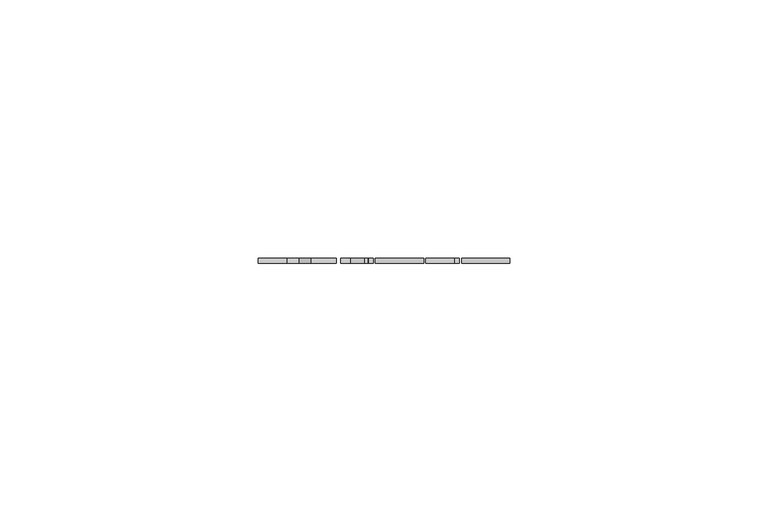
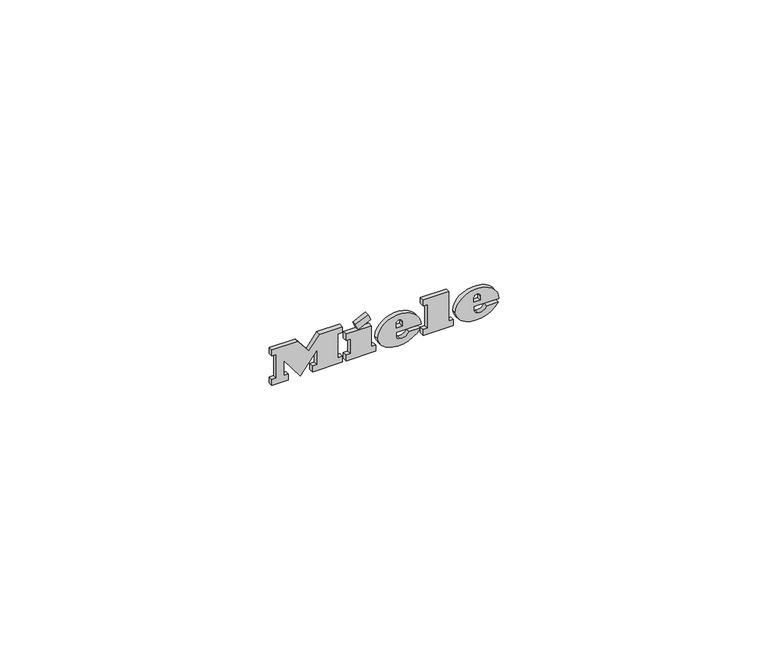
"""IFC4 building model written with IfcOpenShell, lengths in millimetres: proxy geometry, 11373310_BR_KWT6322UG : 36632200_BR_11373310_KWT6322UG."""

from ifc_helpers import new_model, si_unit, point, frame, origin, place, context, project, spatial, polyline, circle_curve, ellipse_curve, trimmed, outline, extrude, source, transform, mapped, element, save
from ifc_brep_helpers import plane_surface, cylinder_surface, revolved_surface, extruded_surface, advanced_brep


def specialty_equipment_e16e2d4e(model_context):
    return source(origin(), model_context, "Body", "SolidModel", [
        advanced_brep(
        [(18.456, -1.0, 161.896), (18.456, -1.0, 162.704), (23.808, -1.0, 162.704), (14.496, -1.0, 162.704), (16.696, -1.0, 160.0), (23.672, -1.0, 161.896), (21.256, -1.0, 161.896), (19.352, -1.0, 161.0), (18.456, -1.0, 163.728), (18.456, -1.0, 164.6), (19.824, -1.0, 164.6), (19.824, -1.0, 163.728), (18.456, 0.0, 161.896), (19.352, 0.0, 161.0), (21.256, 0.0, 161.896), (23.672, 0.0, 161.896), (16.696, 0.0, 160.0), (14.496, 0.0, 162.704), (23.808, 0.0, 162.704), (18.456, 0.0, 162.704), (18.456, 0.0, 163.728), (19.824, 0.0, 163.728), (19.824, 0.0, 164.6), (18.456, 0.0, 164.6)],
        [
            (0, 1),
            (1, 2),
            (2, 3, ellipse_curve(frame((19.152, -1.0, 162.704), z_axis=(0.0, -1.0, 0.0), x_axis=(-1.0, 0.0, 0.0)), 4.656, 3.848)),
            (3, 4, circle_curve(frame((17.5920436, -1.0, 162.976), z_axis=(0.0, -1.0, 0.0), x_axis=(0.0, 0.0, -1.0)), 3.1079688)),
            (4, 5, circle_curve(frame((19.0587936, -1.0, 165.088), z_axis=(0.0, -1.0, 0.0), x_axis=(0.0, 0.0, -1.0)), 5.6098607)),
            (5, 6),
            (6, 7, circle_curve(frame((19.7430588, -1.0, 162.64), z_axis=(0.0, 1.0, 0.0), x_axis=(0.0, 0.0, -1.0)), 1.6859795)),
            (7, 0, circle_curve(frame((19.352, -1.0, 161.896), z_axis=(0.0, 1.0, 0.0), x_axis=(0.0, 0.0, -1.0)), 0.896)),
            (8, 9),
            (9, 10, circle_curve(frame((19.14, -1.0, 164.6), z_axis=(0.0, 1.0, 0.0), x_axis=(0.0, 0.0, -1.0)), 0.684)),
            (10, 11),
            (11, 8),
            (12, 13, circle_curve(frame((19.352, 0.0, 161.896), z_axis=(0.0, -1.0, 0.0), x_axis=(0.0, 0.0, -1.0)), 0.896)),
            (13, 14, circle_curve(frame((19.7430588, 0.0, 162.64), z_axis=(0.0, -1.0, 0.0), x_axis=(0.0, 0.0, -1.0)), 1.6859795)),
            (14, 15),
            (15, 16, circle_curve(frame((19.0587936, 0.0, 165.088), z_axis=(0.0, 1.0, 0.0), x_axis=(0.0, 0.0, -1.0)), 5.6098607)),
            (16, 17, circle_curve(frame((17.5920436, 0.0, 162.976), z_axis=(0.0, 1.0, 0.0), x_axis=(0.0, 0.0, -1.0)), 3.1079688)),
            (17, 18, ellipse_curve(frame((19.152, 0.0, 162.704), z_axis=(0.0, 1.0, 0.0), x_axis=(-1.0, 0.0, 0.0)), 4.656, 3.848)),
            (18, 19),
            (19, 12),
            (20, 21),
            (21, 22),
            (22, 23, circle_curve(frame((19.14, 0.0, 164.6), z_axis=(0.0, -1.0, 0.0), x_axis=(0.0, 0.0, -1.0)), 0.684)),
            (23, 20),
            (0, 12),
            (19, 1),
            (18, 2),
            (5, 15),
            (14, 6),
            (17, 3),
            (13, 7),
            (16, 4),
            (8, 20),
            (23, 9),
            (22, 10),
            (21, 11),
        ],
        [
            plane_surface(frame((18.456, -1.0, 162.704), z_axis=(0.0, -1.0, 0.0), x_axis=(0.0, 0.0, 1.0))),
            plane_surface(frame((18.456, 0.0, 162.704), z_axis=(0.0, 1.0, 0.0), x_axis=(0.0, 0.0, -1.0))),
            plane_surface(frame((18.456, -1.0, 161.896), z_axis=(1.0, 0.0, 0.0), x_axis=(0.0, 1.0, 0.0))),
            plane_surface(frame((18.456, -1.0, 162.704), z_axis=(0.0, 0.0, -1.0), x_axis=(0.0, 1.0, 0.0))),
            plane_surface(frame((23.672, -1.0, 161.896), z_axis=(0.0, 0.0, 1.0), x_axis=(0.0, 1.0, 0.0))),
            extruded_surface(trimmed(ellipse_curve(frame((19.152, 1.0, 162.704), z_axis=(0.0, -1.0, 0.0), x_axis=(-1.0, 0.0, 0.0)), 4.656, 3.848), [point((23.808, 1.0, 162.704))], [point((14.496, 1.0, 162.704))], True, "CARTESIAN"), (0.0, -1.0, 0.0), 1.0),
            revolved_surface(polyline([(19.7430588, 0.0, 160.95402049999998), (19.7430588, -1.0, 160.95402049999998)]), (19.7430588, 0.0, 162.64), (0.0, 1.0, 0.0)),
            revolved_surface(polyline([(19.352, 0.0, 161.0), (19.352, -1.0, 161.0)]), (19.352, 0.0, 161.896), (0.0, 1.0, 0.0)),
            cylinder_surface(frame((17.5920436, 0.0, 162.976), z_axis=(0.0, -1.0, 0.0), x_axis=(0.0, 0.0, -1.0)), 3.1079688),
            cylinder_surface(frame((19.0587936, 0.0, 165.088), z_axis=(0.0, -1.0, 0.0), x_axis=(0.0, 0.0, -1.0)), 5.6098607),
            plane_surface(frame((18.456, -1.0, 163.728), z_axis=(1.0, 0.0, 0.0), x_axis=(0.0, 1.0, 0.0))),
            revolved_surface(polyline([(19.14, 0.0, 163.916), (19.14, -1.0, 163.916)]), (19.14, 0.0, 164.6), (0.0, 1.0, 0.0)),
            plane_surface(frame((19.824, -1.0, 164.6), z_axis=(-1.0, 0.0, 0.0), x_axis=(0.0, 1.0, 0.0))),
            plane_surface(frame((19.824, -1.0, 163.728), z_axis=(0.0, 0.0, 1.0), x_axis=(0.0, 1.0, 0.0))),
        ],
        [
            (0, [[1, 2, 3, 4, 5, 6, 7, 8], [9, 10, 11, 12]]),
            (1, [[13, 14, 15, 16, 17, 18, 19, 20], [21, 22, 23, 24]]),
            (2, [[-1, 25, -20, 26]]),
            (3, [[-2, -26, -19, 27]]),
            (4, [[-6, 28, -15, 29]]),
            (5, [[-3, -27, -18, 30]]),
            (6, [[-7, -29, -14, 31]]),
            (7, [[-8, -31, -13, -25]]),
            (8, [[-4, -30, -17, 32]]),
            (9, [[-5, -32, -16, -28]]),
            (10, [[-9, 33, -24, 34]]),
            (11, [[-10, -34, -23, 35]]),
            (12, [[-11, -35, -22, 36]]),
            (13, [[-12, -36, -21, -33]]),
        ],
    ),
        advanced_brep(
        [(1.76, -1.0, 161.896), (1.76, -1.0, 162.704), (7.112, -1.0, 162.704), (-2.2, -1.0, 162.704), (0.0, -1.0, 160.0), (6.976, -1.0, 161.896), (4.56, -1.0, 161.896), (2.656, -1.0, 161.0), (1.76, -1.0, 163.728), (1.76, -1.0, 164.6), (3.128, -1.0, 164.6), (3.128, -1.0, 163.728), (1.76, 0.0, 161.896), (2.656, 0.0, 161.0), (4.56, 0.0, 161.896), (6.976, 0.0, 161.896), (0.0, 0.0, 160.0), (-2.2, 0.0, 162.704), (7.112, 0.0, 162.704), (1.76, 0.0, 162.704), (1.76, 0.0, 163.728), (3.128, 0.0, 163.728), (3.128, 0.0, 164.6), (1.76, 0.0, 164.6)],
        [
            (0, 1),
            (1, 2),
            (2, 3, ellipse_curve(frame((2.456, -1.0, 162.704), z_axis=(0.0, -1.0, 0.0), x_axis=(-1.0, 0.0, 0.0)), 4.656, 3.848)),
            (3, 4, circle_curve(frame((0.8960436, -1.0, 162.976), z_axis=(0.0, -1.0, 0.0), x_axis=(0.0, 0.0, -1.0)), 3.1079688)),
            (4, 5, circle_curve(frame((2.3627936, -1.0, 165.088), z_axis=(0.0, -1.0, 0.0), x_axis=(0.0, 0.0, -1.0)), 5.6098607)),
            (5, 6),
            (6, 7, circle_curve(frame((3.0470588, -1.0, 162.64), z_axis=(0.0, 1.0, 0.0), x_axis=(0.0, 0.0, -1.0)), 1.6859795)),
            (7, 0, circle_curve(frame((2.656, -1.0, 161.896), z_axis=(0.0, 1.0, 0.0), x_axis=(0.0, 0.0, -1.0)), 0.896)),
            (8, 9),
            (9, 10, circle_curve(frame((2.444, -1.0, 164.6), z_axis=(0.0, 1.0, 0.0), x_axis=(0.0, 0.0, -1.0)), 0.684)),
            (10, 11),
            (11, 8),
            (12, 13, circle_curve(frame((2.656, 0.0, 161.896), z_axis=(0.0, -1.0, 0.0), x_axis=(0.0, 0.0, -1.0)), 0.896)),
            (13, 14, circle_curve(frame((3.0470588, 0.0, 162.64), z_axis=(0.0, -1.0, 0.0), x_axis=(0.0, 0.0, -1.0)), 1.6859795)),
            (14, 15),
            (15, 16, circle_curve(frame((2.3627936, 0.0, 165.088), z_axis=(0.0, 1.0, 0.0), x_axis=(0.0, 0.0, -1.0)), 5.6098607)),
            (16, 17, circle_curve(frame((0.8960436, 0.0, 162.976), z_axis=(0.0, 1.0, 0.0), x_axis=(0.0, 0.0, -1.0)), 3.1079688)),
            (17, 18, ellipse_curve(frame((2.456, 0.0, 162.704), z_axis=(0.0, 1.0, 0.0), x_axis=(-1.0, 0.0, 0.0)), 4.656, 3.848)),
            (18, 19),
            (19, 12),
            (20, 21),
            (21, 22),
            (22, 23, circle_curve(frame((2.444, 0.0, 164.6), z_axis=(0.0, -1.0, 0.0), x_axis=(0.0, 0.0, -1.0)), 0.684)),
            (23, 20),
            (0, 12),
            (19, 1),
            (18, 2),
            (5, 15),
            (14, 6),
            (17, 3),
            (13, 7),
            (16, 4),
            (8, 20),
            (23, 9),
            (22, 10),
            (21, 11),
        ],
        [
            plane_surface(frame((1.76, -1.0, 162.704), z_axis=(0.0, -1.0, 0.0), x_axis=(0.0, 0.0, 1.0))),
            plane_surface(frame((1.76, 0.0, 162.704), z_axis=(0.0, 1.0, 0.0), x_axis=(0.0, 0.0, -1.0))),
            plane_surface(frame((1.76, -1.0, 161.896), z_axis=(1.0, 0.0, 0.0), x_axis=(0.0, 1.0, 0.0))),
            plane_surface(frame((1.76, -1.0, 162.704), z_axis=(0.0, 0.0, -1.0), x_axis=(0.0, 1.0, 0.0))),
            plane_surface(frame((6.976, -1.0, 161.896), z_axis=(0.0, 0.0, 1.0), x_axis=(0.0, 1.0, 0.0))),
            extruded_surface(trimmed(ellipse_curve(frame((2.456, 1.0, 162.704), z_axis=(0.0, -1.0, 0.0), x_axis=(-1.0, 0.0, 0.0)), 4.656, 3.848), [point((7.112, 1.0, 162.704))], [point((-2.2, 1.0, 162.704))], True, "CARTESIAN"), (0.0, -1.0, 0.0), 1.0),
            revolved_surface(polyline([(3.0470588, 0.0, 160.95402049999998), (3.0470588, -1.0, 160.95402049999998)]), (3.0470588, 0.0, 162.64), (0.0, 1.0, 0.0)),
            revolved_surface(polyline([(2.656, 0.0, 161.0), (2.656, -1.0, 161.0)]), (2.656, 0.0, 161.896), (0.0, 1.0, 0.0)),
            cylinder_surface(frame((0.8960436, 0.0, 162.976), z_axis=(0.0, -1.0, 0.0), x_axis=(0.0, 0.0, -1.0)), 3.1079688),
            cylinder_surface(frame((2.3627936, 0.0, 165.088), z_axis=(0.0, -1.0, 0.0), x_axis=(0.0, 0.0, -1.0)), 5.6098607),
            plane_surface(frame((1.76, -1.0, 163.728), z_axis=(1.0, 0.0, 0.0), x_axis=(0.0, 1.0, 0.0))),
            revolved_surface(polyline([(2.444, 0.0, 163.916), (2.444, -1.0, 163.916)]), (2.444, 0.0, 164.6), (0.0, 1.0, 0.0)),
            plane_surface(frame((3.128, -1.0, 164.6), z_axis=(-1.0, 0.0, 0.0), x_axis=(0.0, 1.0, 0.0))),
            plane_surface(frame((3.128, -1.0, 163.728), z_axis=(0.0, 0.0, 1.0), x_axis=(0.0, 1.0, 0.0))),
        ],
        [
            (0, [[1, 2, 3, 4, 5, 6, 7, 8], [9, 10, 11, 12]]),
            (1, [[13, 14, 15, 16, 17, 18, 19, 20], [21, 22, 23, 24]]),
            (2, [[-1, 25, -20, 26]]),
            (3, [[-2, -26, -19, 27]]),
            (4, [[-6, 28, -15, 29]]),
            (5, [[-3, -27, -18, 30]]),
            (6, [[-7, -29, -14, 31]]),
            (7, [[-8, -31, -13, -25]]),
            (8, [[-4, -30, -17, 32]]),
            (9, [[-5, -32, -16, -28]]),
            (10, [[-9, 33, -24, 34]]),
            (11, [[-10, -34, -23, 35]]),
            (12, [[-11, -35, -22, 36]]),
            (13, [[-12, -36, -21, -33]]),
        ],
    ),
        extrude(outline(polyline([(167.528, -6.984), (166.232, -6.376), (167.496, -3.664), (168.792, -4.264), (167.528, -6.984)])), frame((0.0, -1.0, 0.0), z_axis=(0.0, 1.0, 0.0), x_axis=(0.0, 0.0, 1.0)), (0.0, 0.0, 1.0), 1.0),
        extrude(outline(polyline([(166.056, -8.96), (164.624, -8.96), (164.624, -8.008), (161.344, -8.008), (161.344, -8.96), (160.0, -8.96), (160.0, -2.648), (161.344, -2.648), (161.344, -3.576), (166.056, -3.576), (166.056, -8.96)])), frame((0.0, -1.0, 0.0), z_axis=(0.0, 1.0, 0.0), x_axis=(0.0, 0.0, 1.0)), (0.0, 0.0, 1.0), 1.0),
        extrude(outline(polyline([(166.696, 7.56), (166.696, 8.52), (161.344, 8.52), (161.344, 7.56), (160.0, 7.56), (160.0, 14.048), (161.344, 14.048), (161.344, 13.064), (168.0, 13.064), (168.0, 7.56), (166.696, 7.56)])), frame((0.0, -1.0, 0.0), z_axis=(0.0, 1.0, 0.0), x_axis=(0.0, 0.0, 1.0)), (0.0, 0.0, 1.0), 1.0),
        extrude(outline(polyline([(166.696, -24.904), (166.696, -23.936), (161.344, -23.936), (161.344, -24.904), (160.0, -24.904), (160.0, -21.384), (161.344, -21.384), (161.344, -22.344), (164.7471247, -22.344), (160.0, -18.768), (164.8152223, -15.176), (161.344, -15.176), (161.344, -16.16), (160.0, -16.16), (160.0, -9.776), (161.344, -9.776), (161.344, -10.792), (166.696, -10.792), (166.696, -9.776), (168.0, -9.776), (168.0, -14.648), (165.0, -16.984), (168.0, -19.328), (168.0, -24.904), (166.696, -24.904)])), frame((0.0, -1.0, 0.0), z_axis=(0.0, 1.0, 0.0), x_axis=(0.0, 0.0, 1.0)), (0.0, 0.0, 1.0), 1.0),
    ])


if __name__ == "__main__":
    model = new_model("IFC4")
    model_context = context("Model", 3, world=origin())
    ifc_project = project(units=[si_unit("LENGTHUNIT", "METRE", prefix="MILLI")], contexts=[model_context])
    site = spatial("IfcSite", under=ifc_project)
    building = spatial("IfcBuilding", under=site)
    placement = place(None, origin())
    specialty_equipment_shape = specialty_equipment_e16e2d4e(model_context)
    element("IfcBuildingElementProxy", 1, Name="11373310_BR_KWT6322UG : 36632200_BR_11373310_KWT6322UG", ObjectType="11373310_BR_KWT6322UG : 36632200_BR_11373310_KWT6322UG", at=placement, inside=building, context=model_context, shape_type="MappedRepresentation", body=[
        mapped(specialty_equipment_shape, transform((0.0, 0.0, 0.0), x_axis=(1.0, 0.0, 0.0), y_axis=(0.0, 1.0, 0.0), z_axis=(0.0, 0.0, 1.0))),
    ])
    save(model, "model.ifc")
